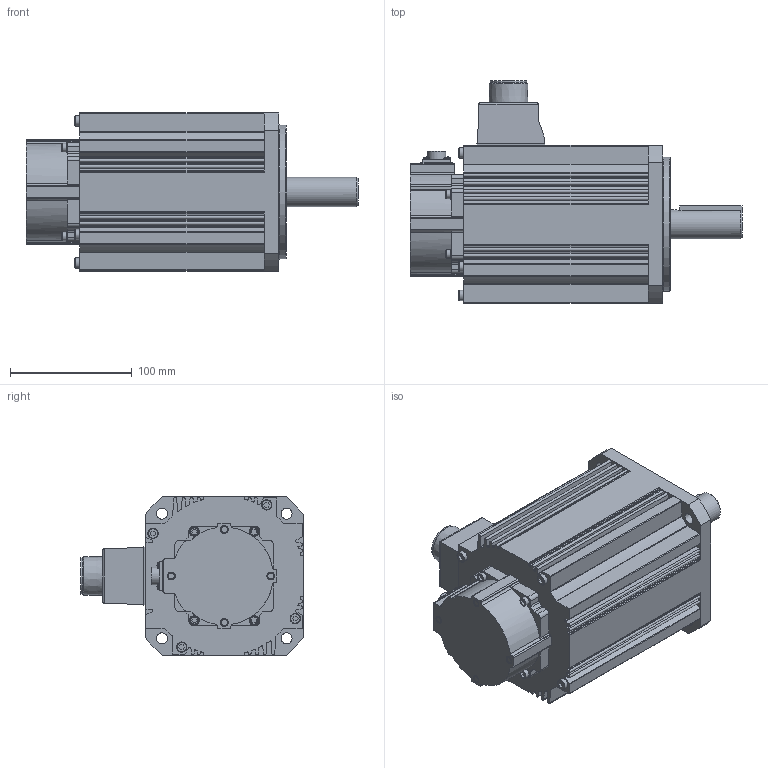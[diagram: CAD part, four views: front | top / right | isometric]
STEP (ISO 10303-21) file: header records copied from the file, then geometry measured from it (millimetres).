
FILE_DESCRIPTION( ( 'STEP AP0' ), '1' );
FILE_NAME( '//expscmdclustefs.cadenas.external/client_exchange/iodir/jobs/output/wkb64903489_no0/STEP/MDME304G1G_2_03.stp', ' ', ( ' ' ), ( ' ' ), 'PSStep 15.0.47', 'PARTsolutions', ' ' );
FILE_SCHEMA( ( 'CONFIG_CONTROL_DESIGN' ) );
Length unit declared in the file: millimetre
Products named in the file (1): HI_MDME304G1G
Bounding box: 273 x 183 x 130 mm (x, y, z)
Volume: 2809210.2 mm3; surface area: 177518.5 mm2
Topology: 1 solids, 1 shells, 544 faces, 1436 edges, 942 vertices
Faces by surface type: plane 281, cylinder 224, cone 18, torus 17, sphere 4
Full cylindrical faces by diameter (mm): 2.459 x1, 5.5 x4, 6.5 x4, 7 x4, 8.5 x4, 9 x4, 10.1 x4, 10.5 x4, 14.8 x1, 24 x1, 29.74 x1, 34 x1, 38 x1, 45 x1, 102 x1, 110 x1
Entity records: 16723 total; most frequent: CARTESIAN_POINT 3121, DIRECTION 2901, ORIENTED_EDGE 2708, EDGE_CURVE 1354, AXIS2_PLACEMENT_3D 1037, VERTEX_POINT 935, LINE 827, VECTOR 827
